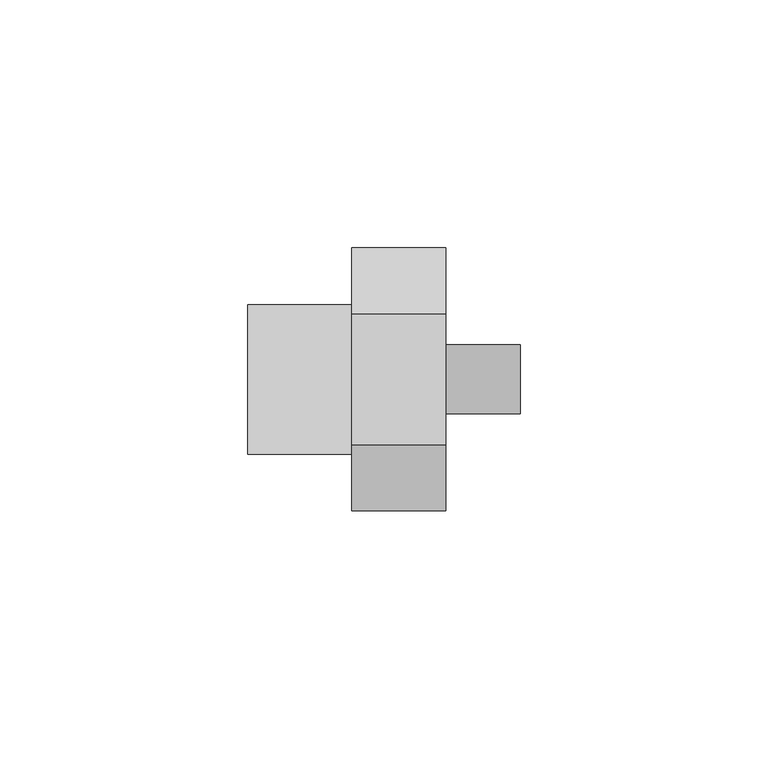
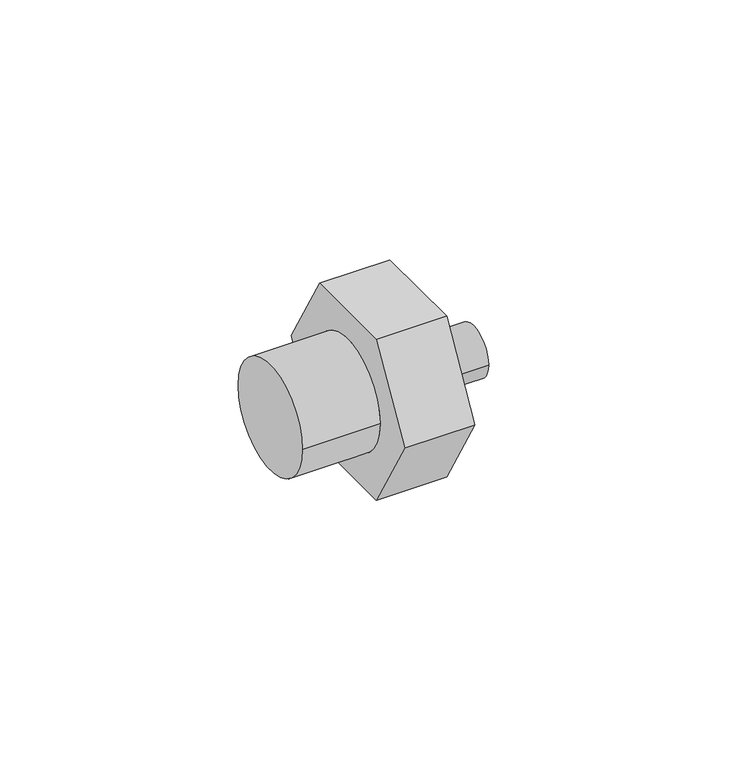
"""IFC4 building model written with IfcOpenShell, lengths in millimetres: pipe fitting geometry, 01011197 : Casquilho Duplo Redução."""

from ifc_helpers import new_model, si_unit, frame, origin, place, context, project, spatial, circle_curve, source, transform, mapped, element, save
from ifc_brep_helpers import plane_surface, cylinder_surface, advanced_brep


def pipe_fitting_68f0fa69(model_context):
    return source(origin(), model_context, "Body", "AdvancedBrep", [
        advanced_brep(
        [(40.0, -13.2790562, 23.0), (40.0, -26.5581124, 0.0), (40.0, -13.2790562, -23.0), (40.0, 13.2790562, -23.0), (40.0, 26.5581124, 0.0), (40.0, 13.2790562, 23.0), (40.0, -6.985, 0.0), (40.0, 6.985, 0.0), (21.0, -13.2790562, 23.0), (21.0, 13.2790562, 23.0), (21.0, 26.5581124, 0.0), (21.0, 13.2790562, -23.0), (21.0, -13.2790562, -23.0), (21.0, -26.5581124, 0.0), (21.0, 15.08125, 0.0), (21.0, -15.08125, 0.0), (55.0, -6.985, 0.0), (55.0, 6.985, 0.0), (0.0, 15.08125, 0.0), (0.0, -15.08125, 0.0)],
        [
            (0, 1),
            (1, 2),
            (2, 3),
            (3, 4),
            (4, 5),
            (5, 0),
            (6, 7, circle_curve(frame((40.0, 0.0, 0.0), z_axis=(-1.0, 0.0, 0.0), x_axis=(0.0, 1.0, 0.0)), 6.985)),
            (7, 6, circle_curve(frame((40.0, 0.0, 0.0), z_axis=(-1.0, 0.0, 0.0), x_axis=(0.0, 1.0, 0.0)), 6.985)),
            (8, 9),
            (9, 10),
            (10, 11),
            (11, 12),
            (12, 13),
            (13, 8),
            (14, 15, circle_curve(frame((21.0, 0.0, 0.0), z_axis=(1.0, 0.0, 0.0), x_axis=(0.0, -1.0, 0.0)), 15.08125)),
            (15, 14, circle_curve(frame((21.0, 0.0, 0.0), z_axis=(1.0, 0.0, 0.0), x_axis=(0.0, -1.0, 0.0)), 15.08125)),
            (0, 8),
            (13, 1),
            (12, 2),
            (11, 3),
            (10, 4),
            (9, 5),
            (16, 17, circle_curve(frame((55.0, 0.0, 0.0), z_axis=(1.0, 0.0, 0.0), x_axis=(0.0, 1.0, 0.0)), 6.985)),
            (17, 16, circle_curve(frame((55.0, 0.0, 0.0), z_axis=(1.0, 0.0, 0.0), x_axis=(0.0, 1.0, 0.0)), 6.985)),
            (17, 7),
            (6, 16),
            (18, 19, circle_curve(frame((0.0, 0.0, 0.0), z_axis=(-1.0, 0.0, 0.0), x_axis=(0.0, -1.0, 0.0)), 15.08125)),
            (19, 18, circle_curve(frame((0.0, 0.0, 0.0), z_axis=(-1.0, 0.0, 0.0), x_axis=(0.0, -1.0, 0.0)), 15.08125)),
            (19, 15),
            (14, 18),
        ],
        [
            plane_surface(frame((40.0, -13.2790562, 23.0), z_axis=(1.0, 0.0, 0.0), x_axis=(0.0, -0.5000000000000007, -0.8660254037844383))),
            plane_surface(frame((21.0, -13.2790562, 23.0), z_axis=(-1.0, 0.0, 0.0), x_axis=(0.0, 0.5000000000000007, 0.8660254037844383))),
            plane_surface(frame((40.0, -13.2790562, 23.0), z_axis=(0.0, -0.8660254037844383, 0.5000000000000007), x_axis=(-1.0, 0.0, 0.0))),
            plane_surface(frame((40.0, -26.5581124, 0.0), z_axis=(0.0, -0.866025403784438, -0.5000000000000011), x_axis=(-1.0, 0.0, 0.0))),
            plane_surface(frame((40.0, -13.2790562, -23.0), z_axis=(0.0, 0.0, -1.0), x_axis=(-1.0, 0.0, 0.0))),
            plane_surface(frame((40.0, 13.2790562, -23.0), z_axis=(0.0, 0.8660254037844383, -0.5000000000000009), x_axis=(-1.0, 0.0, 0.0))),
            plane_surface(frame((40.0, 26.5581124, 0.0), z_axis=(0.0, 0.8660254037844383, 0.5000000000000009), x_axis=(-1.0, 0.0, 0.0))),
            plane_surface(frame((40.0, 13.2790562, 23.0), z_axis=(0.0, 0.0, 1.0), x_axis=(-1.0, 0.0, 0.0))),
            plane_surface(frame((55.0, 0.0, 0.0), z_axis=(1.0, 0.0, 0.0), x_axis=(0.0, 0.0, 1.0))),
            cylinder_surface(frame((40.0, 0.0, 0.0), z_axis=(-1.0, 0.0, 0.0), x_axis=(0.0, 1.0, 0.0)), 6.985),
            plane_surface(frame((0.0, 0.0, 0.0), z_axis=(-1.0, 0.0, 0.0), x_axis=(0.0, 0.0, 1.0))),
            cylinder_surface(frame((21.0, 0.0, 0.0), z_axis=(1.0, 0.0, 0.0), x_axis=(0.0, -1.0, 0.0)), 15.08125),
        ],
        [
            (0, [[1, 2, 3, 4, 5, 6], [7, 8]]),
            (1, [[9, 10, 11, 12, 13, 14], [15, 16]]),
            (2, [[-1, 17, -14, 18]]),
            (3, [[-2, -18, -13, 19]]),
            (4, [[-3, -19, -12, 20]]),
            (5, [[-4, -20, -11, 21]]),
            (6, [[-5, -21, -10, 22]]),
            (7, [[-6, -22, -9, -17]]),
            (8, [[23, 24]]),
            (9, [[-24, 25, -7, 26]]),
            (9, [[-23, -26, -8, -25]]),
            (10, [[27, 28]]),
            (11, [[-28, 29, -15, 30]]),
            (11, [[-27, -30, -16, -29]]),
        ],
    ),
    ])


if __name__ == "__main__":
    model = new_model("IFC4")
    model_context = context("Model", 3, world=origin())
    ifc_project = project(units=[si_unit("LENGTHUNIT", "METRE", prefix="MILLI")], contexts=[model_context])
    site = spatial("IfcSite", under=ifc_project)
    building = spatial("IfcBuilding", under=site)
    placement = place(None, origin())
    pipe_fitting_shape = pipe_fitting_68f0fa69(model_context)
    element("IfcPipeFitting", 1, ObjectType="01011197 : Casquilho Duplo Redução", at=placement, inside=building, context=model_context, shape_type="MappedRepresentation", body=[
        mapped(pipe_fitting_shape, transform((0.0, 0.0, 0.0), x_axis=(1.0, 0.0, 0.0), y_axis=(0.0, 1.0, 0.0), z_axis=(0.0, 0.0, 1.0))),
    ])
    save(model, "model.ifc")
